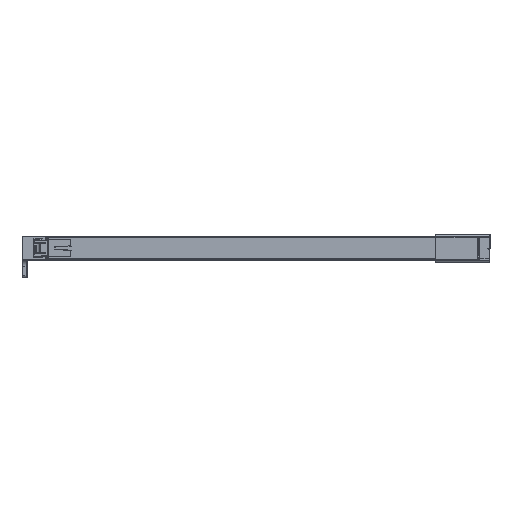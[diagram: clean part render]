
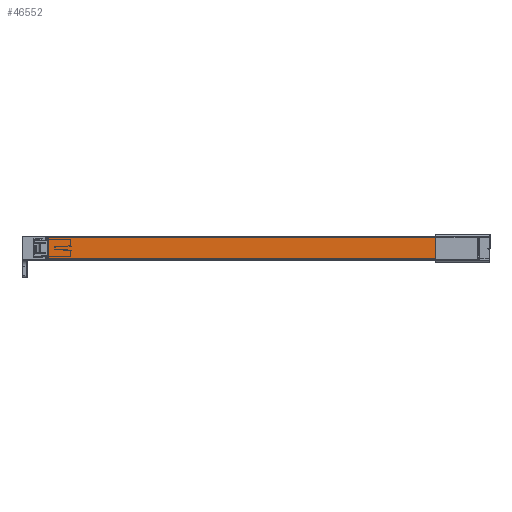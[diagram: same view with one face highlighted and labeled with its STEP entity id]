
A CAD part, front view. The second image highlights one B-rep face of the part: STEP entity #46552.
In plain terms, the highlighted planar face has unit normal (0, -1, 0).
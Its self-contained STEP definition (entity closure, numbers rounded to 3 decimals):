
#2811=FACE_OUTER_BOUND('',#5870,.T.);
#5870=EDGE_LOOP('',(#31190,#31191,#31192,#31193));
#12187=LINE('',#72356,#15869);
#12189=LINE('',#72365,#15871);
#12203=LINE('',#72410,#15885);
#12204=LINE('',#72411,#15886);
#15869=VECTOR('',#56154,1000.);
#15871=VECTOR('',#56164,1000.);
#15885=VECTOR('',#56204,1000.);
#15886=VECTOR('',#56205,1000.);
#19574=VERTEX_POINT('',#72353);
#19575=VERTEX_POINT('',#72355);
#19577=VERTEX_POINT('',#72362);
#19578=VERTEX_POINT('',#72364);
#23854=EDGE_CURVE('',#19574,#19575,#12187,.T.);
#23859=EDGE_CURVE('',#19578,#19577,#12189,.T.);
#23884=EDGE_CURVE('',#19577,#19575,#12203,.T.);
#23885=EDGE_CURVE('',#19574,#19578,#12204,.T.);
#31190=ORIENTED_EDGE('',*,*,#23859,.T.);
#31191=ORIENTED_EDGE('',*,*,#23884,.T.);
#31192=ORIENTED_EDGE('',*,*,#23854,.F.);
#31193=ORIENTED_EDGE('',*,*,#23885,.T.);
#45689=PLANE('',#49859);
#46552=ADVANCED_FACE('',(#2811),#45689,.F.);
#49859=AXIS2_PLACEMENT_3D('',#72409,#56202,#56203);
#56154=DIRECTION('',(0.,0.,-1.));
#56164=DIRECTION('',(0.,0.,-1.));
#56202=DIRECTION('center_axis',(0.,1.,0.));
#56203=DIRECTION('ref_axis',(0.,0.,1.));
#56204=DIRECTION('',(1.,0.,0.));
#56205=DIRECTION('',(-1.,0.,0.));
#72353=CARTESIAN_POINT('',(207.,-5.5,9.8));
#72355=CARTESIAN_POINT('',(207.,-5.5,-9.8));
#72356=CARTESIAN_POINT('',(207.,-5.5,10.));
#72362=CARTESIAN_POINT('',(-155.7,-5.5,-9.8));
#72364=CARTESIAN_POINT('',(-155.7,-5.5,9.8));
#72365=CARTESIAN_POINT('',(-155.7,-5.5,10.));
#72409=CARTESIAN_POINT('Origin',(207.,-5.5,10.));
#72410=CARTESIAN_POINT('',(207.,-5.5,-9.8));
#72411=CARTESIAN_POINT('',(207.,-5.5,9.8));
